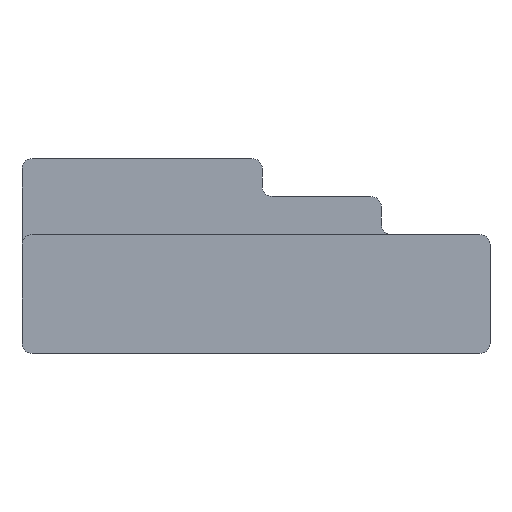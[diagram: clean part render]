
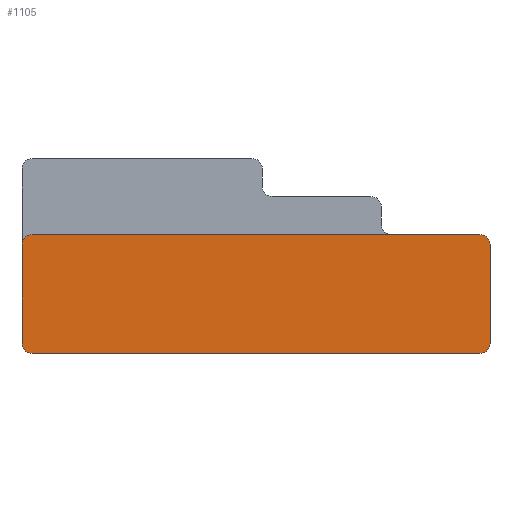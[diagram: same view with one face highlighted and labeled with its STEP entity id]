
A CAD part, front view. The second image highlights one B-rep face of the part: STEP entity #1105.
In plain terms, the highlighted planar face has unit normal (0, -1, 0).
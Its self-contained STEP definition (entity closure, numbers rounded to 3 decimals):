
#200=CARTESIAN_POINT('',(-10.9,-11.6,5.3));
#201=DIRECTION('',(0.,-1.,0.));
#202=DIRECTION('',(0.,0.,1.));
#203=AXIS2_PLACEMENT_3D('',#200,#201,#202);
#205=CARTESIAN_POINT('',(10.9,-11.6,5.3));
#206=DIRECTION('',(0.,-1.,0.));
#207=DIRECTION('',(1.,0.,0.));
#208=AXIS2_PLACEMENT_3D('',#205,#206,#207);
#210=CARTESIAN_POINT('',(10.9,-11.6,0.5));
#211=DIRECTION('',(0.,-1.,0.));
#212=DIRECTION('',(0.,0.,-1.));
#213=AXIS2_PLACEMENT_3D('',#210,#211,#212);
#215=CARTESIAN_POINT('',(-10.9,-11.6,0.5));
#216=DIRECTION('',(0.,-1.,0.));
#217=DIRECTION('',(-1.,0.,0.));
#218=AXIS2_PLACEMENT_3D('',#215,#216,#217);
#220=DIRECTION('',(0.,0.,1.));
#221=VECTOR('',#220,4.8);
#222=CARTESIAN_POINT('',(-11.4,-11.6,0.5));
#223=LINE('',#222,#221);
#308=DIRECTION('',(1.,0.,0.));
#309=VECTOR('',#308,21.8);
#310=CARTESIAN_POINT('',(-10.9,-11.6,5.8));
#311=LINE('',#310,#309);
#500=DIRECTION('',(1.,0.,0.));
#501=VECTOR('',#500,21.8);
#502=CARTESIAN_POINT('',(-10.9,-11.6,0.));
#503=LINE('',#502,#501);
#570=DIRECTION('',(0.,0.,1.));
#571=VECTOR('',#570,4.8);
#572=CARTESIAN_POINT('',(11.4,-11.6,0.5));
#573=LINE('',#572,#571);
#716=CARTESIAN_POINT('',(-10.9,-11.6,5.8));
#717=CARTESIAN_POINT('',(-11.4,-11.6,5.3));
#718=VERTEX_POINT('',#716);
#719=VERTEX_POINT('',#717);
#744=CARTESIAN_POINT('',(11.4,-11.6,5.3));
#745=VERTEX_POINT('',#744);
#746=CARTESIAN_POINT('',(10.9,-11.6,5.8));
#747=VERTEX_POINT('',#746);
#748=CARTESIAN_POINT('',(10.9,-11.6,0.));
#749=CARTESIAN_POINT('',(11.4,-11.6,0.5));
#750=VERTEX_POINT('',#748);
#751=VERTEX_POINT('',#749);
#760=CARTESIAN_POINT('',(-11.4,-11.6,0.5));
#761=VERTEX_POINT('',#760);
#762=CARTESIAN_POINT('',(-10.9,-11.6,0.));
#763=VERTEX_POINT('',#762);
#1083=CARTESIAN_POINT('',(-11.4,-11.6,0.));
#1084=DIRECTION('',(0.,-1.,0.));
#1085=DIRECTION('',(1.,0.,0.));
#1086=AXIS2_PLACEMENT_3D('',#1083,#1084,#1085);
#1087=PLANE('',#1086);
#1089=ORIENTED_EDGE('',*,*,#1088,.F.);
#1091=ORIENTED_EDGE('',*,*,#1090,.T.);
#1093=ORIENTED_EDGE('',*,*,#1092,.F.);
#1095=ORIENTED_EDGE('',*,*,#1094,.F.);
#1096=ORIENTED_EDGE('',*,*,#1073,.F.);
#1098=ORIENTED_EDGE('',*,*,#1097,.F.);
#1100=ORIENTED_EDGE('',*,*,#1099,.F.);
#1102=ORIENTED_EDGE('',*,*,#1101,.T.);
#1103=EDGE_LOOP('',(#1089,#1091,#1093,#1095,#1096,#1098,#1100,#1102));
#1104=FACE_OUTER_BOUND('',#1103,.F.);
#1105=ADVANCED_FACE('',(#1104),#1087,.T.);
#204=CIRCLE('',#203,0.5);
#209=CIRCLE('',#208,0.5);
#214=CIRCLE('',#213,0.5);
#219=CIRCLE('',#218,0.5);
#1073=EDGE_CURVE('',#750,#751,#214,.T.);
#1088=EDGE_CURVE('',#718,#719,#204,.T.);
#1090=EDGE_CURVE('',#718,#747,#311,.T.);
#1092=EDGE_CURVE('',#745,#747,#209,.T.);
#1094=EDGE_CURVE('',#751,#745,#573,.T.);
#1097=EDGE_CURVE('',#763,#750,#503,.T.);
#1099=EDGE_CURVE('',#761,#763,#219,.T.);
#1101=EDGE_CURVE('',#761,#719,#223,.T.);
